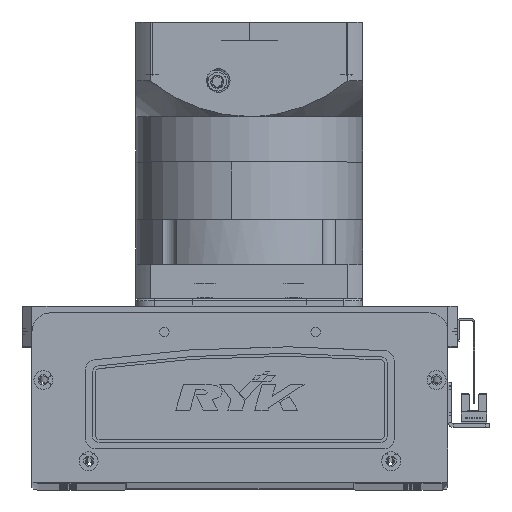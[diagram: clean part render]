
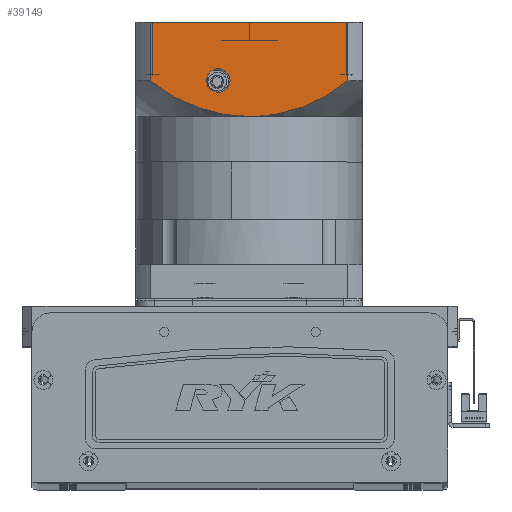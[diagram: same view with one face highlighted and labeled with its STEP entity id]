
A CAD part, top view. The second image highlights one B-rep face of the part: STEP entity #39149.
In plain terms, the highlighted planar face has unit normal (0, 0, 1) as drawn and (0, -1, 0) by its records, which use the part's own axes.
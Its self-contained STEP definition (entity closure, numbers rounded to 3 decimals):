
#27 = CARTESIAN_POINT ( 'NONE',  ( -11.825, -60., -101.356 ) ) ;
#688 = CARTESIAN_POINT ( 'NONE',  ( -60., -60., -150.5 ) ) ;
#766 = EDGE_CURVE ( 'NONE', #37831, #43661, #18935, .T. ) ;
#896 = CARTESIAN_POINT ( 'NONE',  ( -18.792, -60., -102.562 ) ) ;
#1069 = ORIENTED_EDGE ( 'NONE', *, *, #17229, .T. ) ;
#1345 = EDGE_CURVE ( 'NONE', #44562, #37831, #30550, .T. ) ;
#3037 = CARTESIAN_POINT ( 'NONE',  ( 16.5, -60., -125.75 ) ) ;
#3700 = EDGE_CURVE ( 'NONE', #17403, #10112, #39735, .T. ) ;
#4057 = CARTESIAN_POINT ( 'NONE',  ( 19.894, -60., -102.964 ) ) ;
#4483 = CARTESIAN_POINT ( 'NONE',  ( 42.555, -60., -112.543 ) ) ;
#5335 = CARTESIAN_POINT ( 'NONE',  ( -32.118, -60., -107.084 ) ) ;
#5807 = CARTESIAN_POINT ( 'NONE',  ( 0., -60., -100.5 ) ) ;
#6003 = CARTESIAN_POINT ( 'NONE',  ( -9.477, -60., -101.046 ) ) ;
#6333 = DIRECTION ( 'NONE',  ( 0., 1., 0. ) ) ;
#8331 = CIRCLE ( 'NONE', #56594, 6.25 ) ;
#10112 = VERTEX_POINT ( 'NONE', #58306 ) ;
#10412 = LINE ( 'NONE', #688, #12015 ) ;
#11090 = CARTESIAN_POINT ( 'NONE',  ( -4.747, -60., -100.604 ) ) ;
#11903 = ORIENTED_EDGE ( 'NONE', *, *, #63751, .T. ) ;
#12015 = VECTOR ( 'NONE', #45389, 1000. ) ;
#12873 = ORIENTED_EDGE ( 'NONE', *, *, #37006, .T. ) ;
#13048 = VECTOR ( 'NONE', #36728, 1000. ) ;
#15707 = CARTESIAN_POINT ( 'NONE',  ( -48.52, -60., -116.438 ) ) ;
#15736 = CARTESIAN_POINT ( 'NONE',  ( 50.338, -60., -117.969 ) ) ;
#16150 = CARTESIAN_POINT ( 'NONE',  ( 0., -60., -100.5 ) ) ;
#17229 = EDGE_CURVE ( 'NONE', #44562, #17403, #10412, .T. ) ;
#17403 = VERTEX_POINT ( 'NONE', #61622 ) ;
#18935 = B_SPLINE_CURVE_WITH_KNOTS ( 'NONE', 3,
 ( #35236, #15707, #50897, #20971, #35880, #30392, #20324, #5335, #56170, #61265, #896, #36101, #27, #6003, #41128, #11090, #46270, #16150 ),
 .UNSPECIFIED., .F., .F.,
 ( 4, 2, 2, 2, 2, 2, 2, 2, 4 ),
 ( 0., 0.014, 0.018, 0.021, 0.028, 0.042, 0.046, 0.05, 0.057 ),
 .UNSPECIFIED. ) ;
#19668 = EDGE_LOOP ( 'NONE', ( #45687, #1069, #62129, #59270, #31342 ) ) ;
#20324 = CARTESIAN_POINT ( 'NONE',  ( -35.342, -60., -108.587 ) ) ;
#20779 = CARTESIAN_POINT ( 'NONE',  ( 15.267, -60., -101.938 ) ) ;
#20971 = CARTESIAN_POINT ( 'NONE',  ( -39.546, -60., -110.776 ) ) ;
#21002 = CARTESIAN_POINT ( 'NONE',  ( 9.454, -60., -100.914 ) ) ;
#22844 = EDGE_LOOP ( 'NONE', ( #11903, #12873 ) ) ;
#24285 = CARTESIAN_POINT ( 'NONE',  ( 4.753, -60., -100.5 ) ) ;
#24302 = CIRCLE ( 'NONE', #54958, 6.25 ) ;
#24491 = CARTESIAN_POINT ( 'NONE',  ( 16.426, -60., -102.169 ) ) ;
#24689 = B_SPLINE_CURVE_WITH_KNOTS ( 'NONE', 3,
 ( #5807, #24285, #21002, #20779, #24491, #59771, #4057, #29548, #29327, #50706, #35908, #39452, #4483, #39237, #30836, #40721, #15736, #50925 ),
 .UNSPECIFIED., .F., .F.,
 ( 4, 2, 2, 2, 2, 2, 2, 2, 4 ),
 ( 0., 0.014, 0.018, 0.021, 0.028, 0.042, 0.046, 0.05, 0.057 ),
 .UNSPECIFIED. ) ;
#25320 = CARTESIAN_POINT ( 'NONE',  ( 52.156, -60., -150.5 ) ) ;
#26052 = DIRECTION ( 'NONE',  ( 0., -1., 0. ) ) ;
#26483 = CARTESIAN_POINT ( 'NONE',  ( -60., -60., -150.5 ) ) ;
#28525 = VERTEX_POINT ( 'NONE', #48150 ) ;
#29327 = CARTESIAN_POINT ( 'NONE',  ( 25.577, -60., -104.596 ) ) ;
#29395 = DIRECTION ( 'NONE',  ( 0., 1., 0. ) ) ;
#29548 = CARTESIAN_POINT ( 'NONE',  ( 23.329, -60., -103.886 ) ) ;
#30392 = CARTESIAN_POINT ( 'NONE',  ( -36.409, -60., -109.113 ) ) ;
#30550 = LINE ( 'NONE', #37242, #43117 ) ;
#30836 = CARTESIAN_POINT ( 'NONE',  ( 45.542, -60., -114.478 ) ) ;
#31342 = ORIENTED_EDGE ( 'NONE', *, *, #766, .F. ) ;
#34050 = DIRECTION ( 'NONE',  ( 0., 0., -1. ) ) ;
#35236 = CARTESIAN_POINT ( 'NONE',  ( -52.156, -60., -119.5 ) ) ;
#35880 = CARTESIAN_POINT ( 'NONE',  ( -38.51, -60., -110.207 ) ) ;
#35908 = CARTESIAN_POINT ( 'NONE',  ( 36.444, -60., -108.986 ) ) ;
#36101 = CARTESIAN_POINT ( 'NONE',  ( -12.993, -60., -101.537 ) ) ;
#36255 = EDGE_CURVE ( 'NONE', #43661, #10112, #24689, .T. ) ;
#36728 = DIRECTION ( 'NONE',  ( 0., 0., 1. ) ) ;
#37006 = EDGE_CURVE ( 'NONE', #28525, #42199, #8331, .T. ) ;
#37242 = CARTESIAN_POINT ( 'NONE',  ( -52.156, -60., -97.5 ) ) ;
#37831 = VERTEX_POINT ( 'NONE', #48483 ) ;
#39149 = ADVANCED_FACE ( 'NONE', ( #50591, #60868 ), #50950, .T. ) ;
#39237 = CARTESIAN_POINT ( 'NONE',  ( 44.553, -60., -113.817 ) ) ;
#39452 = CARTESIAN_POINT ( 'NONE',  ( 41.545, -60., -111.931 ) ) ;
#39735 = LINE ( 'NONE', #25320, #13048 ) ;
#40721 = CARTESIAN_POINT ( 'NONE',  ( 48.457, -60., -116.522 ) ) ;
#40808 = CARTESIAN_POINT ( 'NONE',  ( 16.5, -60., -119.5 ) ) ;
#41128 = CARTESIAN_POINT ( 'NONE',  ( -8.294, -60., -100.916 ) ) ;
#42199 = VERTEX_POINT ( 'NONE', #3037 ) ;
#43113 = CARTESIAN_POINT ( 'NONE',  ( 0., -60., -100.5 ) ) ;
#43117 = VECTOR ( 'NONE', #51831, 1000. ) ;
#43661 = VERTEX_POINT ( 'NONE', #43113 ) ;
#43969 = CARTESIAN_POINT ( 'NONE',  ( 16.5, -60., -119.5 ) ) ;
#44562 = VERTEX_POINT ( 'NONE', #49292 ) ;
#45389 = DIRECTION ( 'NONE',  ( 1., 0., 0. ) ) ;
#45687 = ORIENTED_EDGE ( 'NONE', *, *, #1345, .F. ) ;
#46270 = CARTESIAN_POINT ( 'NONE',  ( -2.376, -60., -100.5 ) ) ;
#46612 = DIRECTION ( 'NONE',  ( 0., 0., -1. ) ) ;
#48150 = CARTESIAN_POINT ( 'NONE',  ( 16.5, -60., -113.25 ) ) ;
#48192 = AXIS2_PLACEMENT_3D ( 'NONE', #26483, #26052, #60883 ) ;
#48483 = CARTESIAN_POINT ( 'NONE',  ( -52.156, -60., -119.5 ) ) ;
#49292 = CARTESIAN_POINT ( 'NONE',  ( -52.156, -60., -150.5 ) ) ;
#50591 = FACE_OUTER_BOUND ( 'NONE', #19668, .T. ) ;
#50706 = CARTESIAN_POINT ( 'NONE',  ( 32.196, -60., -107.007 ) ) ;
#50897 = CARTESIAN_POINT ( 'NONE',  ( -44.656, -60., -113.73 ) ) ;
#50925 = CARTESIAN_POINT ( 'NONE',  ( 52.156, -60., -119.5 ) ) ;
#50950 = PLANE ( 'NONE',  #48192 ) ;
#51831 = DIRECTION ( 'NONE',  ( 0., 0., 1. ) ) ;
#54958 = AXIS2_PLACEMENT_3D ( 'NONE', #43969, #29395, #34050 ) ;
#56170 = CARTESIAN_POINT ( 'NONE',  ( -29.939, -60., -106.183 ) ) ;
#56594 = AXIS2_PLACEMENT_3D ( 'NONE', #40808, #6333, #46612 ) ;
#58306 = CARTESIAN_POINT ( 'NONE',  ( 52.156, -60., -119.5 ) ) ;
#59270 = ORIENTED_EDGE ( 'NONE', *, *, #36255, .F. ) ;
#59771 = CARTESIAN_POINT ( 'NONE',  ( 18.739, -60., -102.681 ) ) ;
#60868 = FACE_BOUND ( 'NONE', #22844, .T. ) ;
#60883 = DIRECTION ( 'NONE',  ( 1., 0., 0. ) ) ;
#61265 = CARTESIAN_POINT ( 'NONE',  ( -23.319, -60., -103.777 ) ) ;
#61622 = CARTESIAN_POINT ( 'NONE',  ( 52.156, -60., -150.5 ) ) ;
#62129 = ORIENTED_EDGE ( 'NONE', *, *, #3700, .T. ) ;
#63751 = EDGE_CURVE ( 'NONE', #42199, #28525, #24302, .T. ) ;
